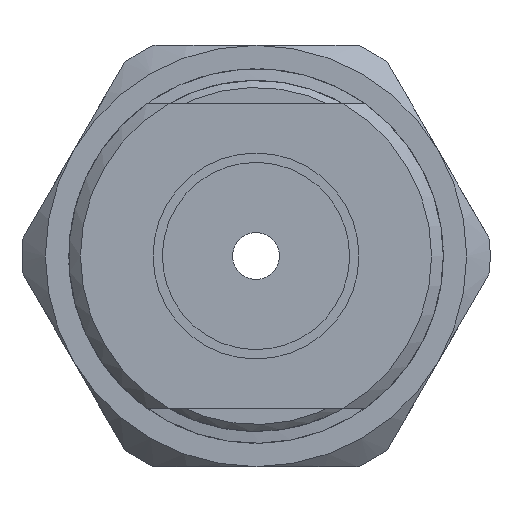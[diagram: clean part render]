
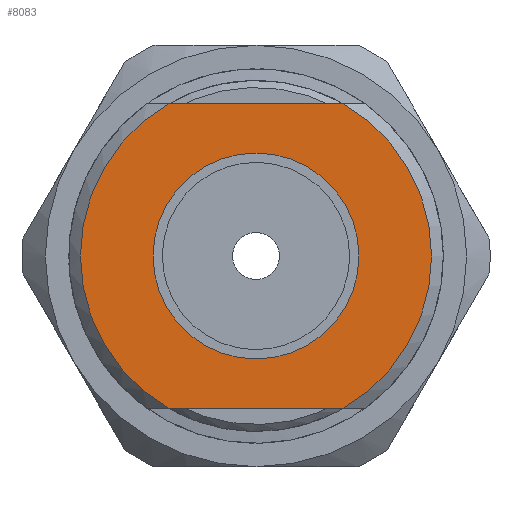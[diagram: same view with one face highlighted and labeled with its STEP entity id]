
A CAD part, front view. The second image highlights one B-rep face of the part: STEP entity #8083.
In plain terms, the highlighted planar face has unit normal (0, -1, 0).
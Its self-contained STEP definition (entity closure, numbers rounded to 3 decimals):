
#558 = DIRECTION ( 'NONE',  ( 0., 1., 0. ) ) ;
#904 = CIRCLE ( 'NONE', #3793, 4.4 ) ;
#1515 = CARTESIAN_POINT ( 'NONE',  ( -4.097, -6.675, 20.5 ) ) ;
#2590 = CARTESIAN_POINT ( 'NONE',  ( -4.097, -6.675, 7.5 ) ) ;
#2692 = AXIS2_PLACEMENT_3D ( 'NONE', #4442, #4433, #4418 ) ;
#3403 = CARTESIAN_POINT ( 'NONE',  ( -4.755, -6.675, 14. ) ) ;
#3410 = DIRECTION ( 'NONE',  ( -1., 0., 0. ) ) ;
#3793 = AXIS2_PLACEMENT_3D ( 'NONE', #10607, #10601, #10593 ) ;
#3947 = VECTOR ( 'NONE', #3410, 1000. ) ;
#4281 = DIRECTION ( 'NONE',  ( 1., 0., 0. ) ) ;
#4302 = DIRECTION ( 'NONE',  ( 0., -1., 0. ) ) ;
#4331 = CARTESIAN_POINT ( 'NONE',  ( -0.355, -6.675, 14. ) ) ;
#4334 = EDGE_LOOP ( 'NONE', ( #10641, #7608 ) ) ;
#4418 = DIRECTION ( 'NONE',  ( 0., 0., 1. ) ) ;
#4433 = DIRECTION ( 'NONE',  ( 0., 1., 0. ) ) ;
#4442 = CARTESIAN_POINT ( 'NONE',  ( -7.945, -6.675, 7.5 ) ) ;
#4502 = CIRCLE ( 'NONE', #10233, 7.5 ) ;
#4550 = PLANE ( 'NONE',  #2692 ) ;
#4587 = VERTEX_POINT ( 'NONE', #4687 ) ;
#4686 = EDGE_CURVE ( 'NONE', #4587, #9369, #14003, .T. ) ;
#4687 = CARTESIAN_POINT ( 'NONE',  ( 4.045, -6.675, 14. ) ) ;
#4695 = VECTOR ( 'NONE', #13830, 1000. ) ;
#4821 = CARTESIAN_POINT ( 'NONE',  ( 3.387, -6.675, 20.5 ) ) ;
#4920 = ORIENTED_EDGE ( 'NONE', *, *, #11687, .F. ) ;
#5080 = FACE_OUTER_BOUND ( 'NONE', #6267, .T. ) ;
#5970 = VERTEX_POINT ( 'NONE', #2590 ) ;
#6267 = EDGE_LOOP ( 'NONE', ( #9145, #10116, #4920, #12229 ) ) ;
#6668 = AXIS2_PLACEMENT_3D ( 'NONE', #4331, #4302, #4281 ) ;
#6981 = CARTESIAN_POINT ( 'NONE',  ( -0.355, -6.675, 7.5 ) ) ;
#7077 = EDGE_CURVE ( 'NONE', #9369, #4587, #904, .T. ) ;
#7128 = LINE ( 'NONE', #6981, #3947 ) ;
#7597 = EDGE_CURVE ( 'NONE', #12671, #11743, #13271, .T. ) ;
#7608 = ORIENTED_EDGE ( 'NONE', *, *, #7077, .F. ) ;
#7640 = CARTESIAN_POINT ( 'NONE',  ( -0.355, -6.675, 14. ) ) ;
#7884 = LINE ( 'NONE', #11601, #4695 ) ;
#8026 = CARTESIAN_POINT ( 'NONE',  ( 3.387, -6.675, 7.5 ) ) ;
#8083 = ADVANCED_FACE ( 'NONE', ( #14460, #5080 ), #4550, .F. ) ;
#8363 = DIRECTION ( 'NONE',  ( 0., 0., 1. ) ) ;
#8368 = DIRECTION ( 'NONE',  ( 0., 1., 0. ) ) ;
#8377 = CARTESIAN_POINT ( 'NONE',  ( -0.355, -6.675, 14. ) ) ;
#8568 = VERTEX_POINT ( 'NONE', #1515 ) ;
#8863 = DIRECTION ( 'NONE',  ( 0., 0., 1. ) ) ;
#9145 = ORIENTED_EDGE ( 'NONE', *, *, #12156, .F. ) ;
#9369 = VERTEX_POINT ( 'NONE', #3403 ) ;
#9705 = EDGE_CURVE ( 'NONE', #5970, #8568, #4502, .T. ) ;
#10116 = ORIENTED_EDGE ( 'NONE', *, *, #7597, .F. ) ;
#10233 = AXIS2_PLACEMENT_3D ( 'NONE', #7640, #558, #8863 ) ;
#10593 = DIRECTION ( 'NONE',  ( 1., 0., 0. ) ) ;
#10601 = DIRECTION ( 'NONE',  ( 0., -1., 0. ) ) ;
#10607 = CARTESIAN_POINT ( 'NONE',  ( -0.355, -6.675, 14. ) ) ;
#10641 = ORIENTED_EDGE ( 'NONE', *, *, #4686, .F. ) ;
#10723 = AXIS2_PLACEMENT_3D ( 'NONE', #8377, #8368, #8363 ) ;
#11601 = CARTESIAN_POINT ( 'NONE',  ( -0.355, -6.675, 20.5 ) ) ;
#11687 = EDGE_CURVE ( 'NONE', #8568, #12671, #7884, .T. ) ;
#11743 = VERTEX_POINT ( 'NONE', #8026 ) ;
#12156 = EDGE_CURVE ( 'NONE', #11743, #5970, #7128, .T. ) ;
#12229 = ORIENTED_EDGE ( 'NONE', *, *, #9705, .F. ) ;
#12671 = VERTEX_POINT ( 'NONE', #4821 ) ;
#13271 = CIRCLE ( 'NONE', #10723, 7.5 ) ;
#13830 = DIRECTION ( 'NONE',  ( 1., 0., 0. ) ) ;
#14003 = CIRCLE ( 'NONE', #6668, 4.4 ) ;
#14460 = FACE_BOUND ( 'NONE', #4334, .T. ) ;
